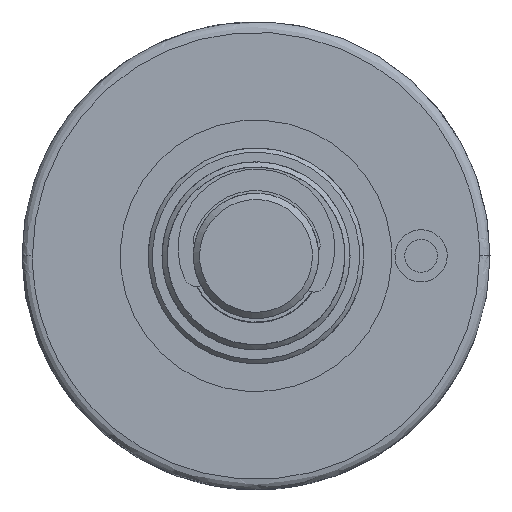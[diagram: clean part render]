
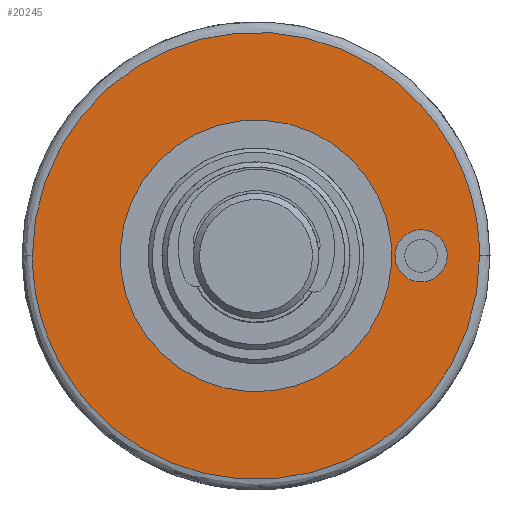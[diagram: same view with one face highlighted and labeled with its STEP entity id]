
A CAD part, left-side view. The second image highlights one B-rep face of the part: STEP entity #20245.
In plain terms, the highlighted planar face has unit normal (-1, 0, 0).
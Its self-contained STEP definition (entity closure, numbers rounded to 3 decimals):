
#196 = EDGE_LOOP ( 'NONE', ( #32866, #36442 ) ) ;
#1361 = EDGE_LOOP ( 'NONE', ( #25529 ) ) ;
#1961 = CARTESIAN_POINT ( 'NONE',  ( 22.65, 10.7, 0. ) ) ;
#2244 = CARTESIAN_POINT ( 'NONE',  ( 22.65, -10.7, -21.4 ) ) ;
#3066 = FACE_BOUND ( 'NONE', #19405, .T. ) ;
#4377 =( BOUNDED_CURVE ( )  B_SPLINE_CURVE ( 3, ( #38260, #2244, #12143, #1961 ),
 .UNSPECIFIED., .F., .F. ) 
 B_SPLINE_CURVE_WITH_KNOTS ( ( 4, 4 ),
 ( 0., 1. ),
 .UNSPECIFIED. ) 
 CURVE ( )  GEOMETRIC_REPRESENTATION_ITEM ( )  RATIONAL_B_SPLINE_CURVE ( ( 0.957, 0.319, 0.319, 0.957 ) ) 
 REPRESENTATION_ITEM ( '' )  );
#4562 = AXIS2_PLACEMENT_3D ( 'NONE', #23093, #6671, #36783 ) ;
#5832 = DIRECTION ( 'NONE',  ( -1., 0., 0. ) ) ;
#6671 = DIRECTION ( 'NONE',  ( 1., 0., 0. ) ) ;
#7521 =( BOUNDED_CURVE ( )  B_SPLINE_CURVE ( 3, ( #41366, #41923, #38056, #15239 ),
 .UNSPECIFIED., .F., .F. ) 
 B_SPLINE_CURVE_WITH_KNOTS ( ( 4, 4 ),
 ( 0., 1. ),
 .UNSPECIFIED. ) 
 CURVE ( )  GEOMETRIC_REPRESENTATION_ITEM ( )  RATIONAL_B_SPLINE_CURVE ( ( 0.957, 0.319, 0.319, 0.957 ) ) 
 REPRESENTATION_ITEM ( '' )  );
#8166 = CARTESIAN_POINT ( 'NONE',  ( 22.65, -7.606, -1.215 ) ) ;
#8686 = FACE_BOUND ( 'NONE', #1361, .T. ) ;
#9487 = EDGE_CURVE ( 'NONE', #39042, #11988, #7521, .T. ) ;
#9803 = DIRECTION ( 'NONE',  ( -1., 0., 0. ) ) ;
#11988 = VERTEX_POINT ( 'NONE', #14138 ) ;
#12143 = CARTESIAN_POINT ( 'NONE',  ( 22.65, 10.7, -21.4 ) ) ;
#12335 = EDGE_CURVE ( 'NONE', #40174, #40174, #23182, .T. ) ;
#14138 = CARTESIAN_POINT ( 'NONE',  ( 22.65, -10.7, 0. ) ) ;
#15239 = CARTESIAN_POINT ( 'NONE',  ( 22.65, -10.7, 0. ) ) ;
#15724 = DIRECTION ( 'NONE',  ( 0., 0.236, -0.972 ) ) ;
#16007 = CARTESIAN_POINT ( 'NONE',  ( 22.65, 10.7, 0. ) ) ;
#19405 = EDGE_LOOP ( 'NONE', ( #37530 ) ) ;
#19936 = EDGE_CURVE ( 'NONE', #11988, #39042, #4377, .T. ) ;
#19971 = FACE_OUTER_BOUND ( 'NONE', #196, .T. ) ;
#20245 = ADVANCED_FACE ( 'NONE', ( #3066, #8686, #19971 ), #33443, .F. ) ;
#23093 = CARTESIAN_POINT ( 'NONE',  ( 22.65, 10.828, 10.828 ) ) ;
#23182 = CIRCLE ( 'NONE', #38839, 1.25 ) ;
#25212 = EDGE_CURVE ( 'NONE', #29803, #29803, #36349, .T. ) ;
#25431 = CARTESIAN_POINT ( 'NONE',  ( 22.65, 1.531, -6.317 ) ) ;
#25529 = ORIENTED_EDGE ( 'NONE', *, *, #25212, .F. ) ;
#26642 = DIRECTION ( 'NONE',  ( 0., 0.236, -0.972 ) ) ;
#29803 = VERTEX_POINT ( 'NONE', #25431 ) ;
#32600 = CARTESIAN_POINT ( 'NONE',  ( 22.65, 0., 0. ) ) ;
#32844 = CARTESIAN_POINT ( 'NONE',  ( 22.65, -7.9, 0. ) ) ;
#32866 = ORIENTED_EDGE ( 'NONE', *, *, #19936, .F. ) ;
#33443 = PLANE ( 'NONE',  #4562 ) ;
#35352 = AXIS2_PLACEMENT_3D ( 'NONE', #32600, #5832, #15724 ) ;
#36349 = CIRCLE ( 'NONE', #35352, 6.5 ) ;
#36442 = ORIENTED_EDGE ( 'NONE', *, *, #9487, .F. ) ;
#36783 = DIRECTION ( 'NONE',  ( 0., -1., 0. ) ) ;
#37530 = ORIENTED_EDGE ( 'NONE', *, *, #12335, .F. ) ;
#38056 = CARTESIAN_POINT ( 'NONE',  ( 22.65, -10.7, 21.4 ) ) ;
#38260 = CARTESIAN_POINT ( 'NONE',  ( 22.65, -10.7, 0. ) ) ;
#38839 = AXIS2_PLACEMENT_3D ( 'NONE', #32844, #9803, #26642 ) ;
#39042 = VERTEX_POINT ( 'NONE', #16007 ) ;
#40174 = VERTEX_POINT ( 'NONE', #8166 ) ;
#41366 = CARTESIAN_POINT ( 'NONE',  ( 22.65, 10.7, 0. ) ) ;
#41923 = CARTESIAN_POINT ( 'NONE',  ( 22.65, 10.7, 21.4 ) ) ;
